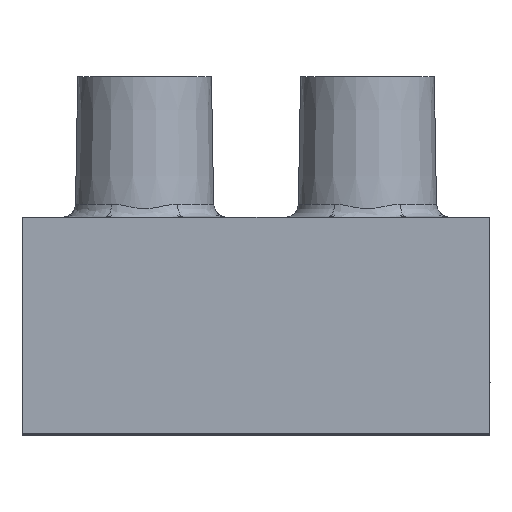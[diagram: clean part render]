
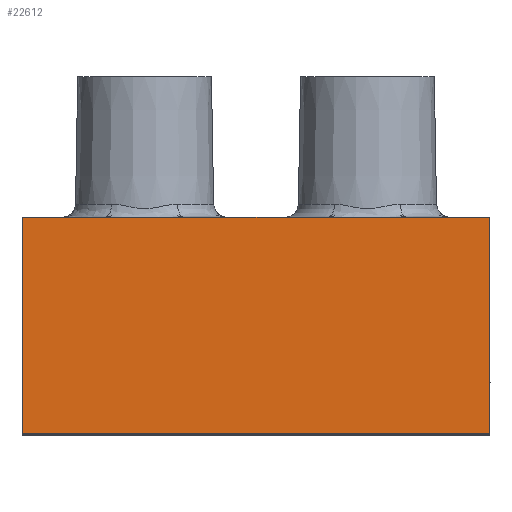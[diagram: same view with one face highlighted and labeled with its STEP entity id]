
A CAD part, top view. The second image highlights one B-rep face of the part: STEP entity #22612.
In plain terms, the highlighted planar face has unit normal (0, 0, 1).
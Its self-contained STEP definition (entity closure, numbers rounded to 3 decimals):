
#1708 = CARTESIAN_POINT ( 'NONE',  ( -7.399, 2.649, 0. ) ) ;
#3031 = CARTESIAN_POINT ( 'NONE',  ( -20.935, 2.649, 0. ) ) ;
#6104 = CARTESIAN_POINT ( 'NONE',  ( -17.399, 2.649, 0. ) ) ;
#6105 = DIRECTION ( 'NONE',  ( 1., 0., 0. ) ) ;
#6106 = VECTOR ( 'NONE', #6105, 1000. ) ;
#6107 = CARTESIAN_POINT ( 'NONE',  ( -14.167, 2.649, 0. ) ) ;
#6108 = LINE ( 'NONE', #6107, #6106 ) ;
#6340 = CARTESIAN_POINT ( 'NONE',  ( -3.667, 2.649, 0. ) ) ;
#6341 = DIRECTION ( 'NONE',  ( 1., 0., 0. ) ) ;
#6342 = VECTOR ( 'NONE', #6341, 1000. ) ;
#6343 = CARTESIAN_POINT ( 'NONE',  ( -14.167, 2.649, 0. ) ) ;
#6344 = LINE ( 'NONE', #6343, #6342 ) ;
#6372 = DIRECTION ( 'NONE',  ( 1., 0., 0. ) ) ;
#6383 = VECTOR ( 'NONE', #6372, 1000. ) ;
#6384 = CARTESIAN_POINT ( 'NONE',  ( -14.167, 2.649, 0. ) ) ;
#6385 = LINE ( 'NONE', #6384, #6383 ) ;
#6387 = CARTESIAN_POINT ( 'NONE',  ( -10.935, 2.649, 0. ) ) ;
#6389 = CARTESIAN_POINT ( 'NONE',  ( -3.667, -7.051, 0. ) ) ;
#6390 = DIRECTION ( 'NONE',  ( 0., -1., 0. ) ) ;
#6391 = VECTOR ( 'NONE', #6390, 1000. ) ;
#6392 = CARTESIAN_POINT ( 'NONE',  ( -3.667, -2.201, 0. ) ) ;
#6393 = LINE ( 'NONE', #6392, #6391 ) ;
#6483 = DIRECTION ( 'NONE',  ( 1., 0., 0. ) ) ;
#6484 = VECTOR ( 'NONE', #6483, 1000. ) ;
#6485 = CARTESIAN_POINT ( 'NONE',  ( -14.167, 2.649, 0. ) ) ;
#6486 = LINE ( 'NONE', #6485, #6484 ) ;
#6493 = CARTESIAN_POINT ( 'NONE',  ( -24.667, 2.649, 0. ) ) ;
#6494 = CARTESIAN_POINT ( 'NONE',  ( -24.667, -7.051, 0. ) ) ;
#6501 = DIRECTION ( 'NONE',  ( 0., 1., 0. ) ) ;
#6502 = VECTOR ( 'NONE', #6501, 1000. ) ;
#6503 = CARTESIAN_POINT ( 'NONE',  ( -24.667, -2.201, 0. ) ) ;
#6504 = LINE ( 'NONE', #6503, #6502 ) ;
#7653 = DIRECTION ( 'NONE',  ( -1., 0., 0. ) ) ;
#7654 = VECTOR ( 'NONE', #7653, 1000. ) ;
#7655 = CARTESIAN_POINT ( 'NONE',  ( -14.167, -7.051, 0. ) ) ;
#7656 = LINE ( 'NONE', #7655, #7654 ) ;
#8140 = FACE_OUTER_BOUND ( 'NONE', #22613, .T. ) ;
#8156 = DIRECTION ( 'NONE',  ( 0., 1., 0. ) ) ;
#8157 = DIRECTION ( 'NONE',  ( 0., 0., -1. ) ) ;
#8158 = CARTESIAN_POINT ( 'NONE',  ( -24.667, -7.051, 0. ) ) ;
#8159 = AXIS2_PLACEMENT_3D ( 'NONE', #8158, #8157, #8156 ) ;
#8160 = PLANE ( 'NONE',  #8159 ) ;
#8196 = DIRECTION ( 'NONE',  ( -1., 0., 0. ) ) ;
#8197 = VECTOR ( 'NONE', #8196, 1000. ) ;
#8198 = CARTESIAN_POINT ( 'NONE',  ( -14.167, 2.649, 0. ) ) ;
#8199 = LINE ( 'NONE', #8198, #8197 ) ;
#20215 = VERTEX_POINT ( 'NONE', #1708 ) ;
#20403 = VERTEX_POINT ( 'NONE', #3031 ) ;
#21616 = EDGE_CURVE ( 'NONE', #20403, #21617, #6108, .T. ) ;
#21617 = VERTEX_POINT ( 'NONE', #6104 ) ;
#21665 = EDGE_CURVE ( 'NONE', #20215, #21666, #6344, .T. ) ;
#21666 = VERTEX_POINT ( 'NONE', #6340 ) ;
#21677 = EDGE_CURVE ( 'NONE', #21666, #21678, #6393, .T. ) ;
#21678 = VERTEX_POINT ( 'NONE', #6389 ) ;
#21681 = VERTEX_POINT ( 'NONE', #6387 ) ;
#21683 = EDGE_CURVE ( 'NONE', #21681, #20215, #6385, .T. ) ;
#21695 = EDGE_CURVE ( 'NONE', #21720, #20403, #6486, .T. ) ;
#21716 = EDGE_CURVE ( 'NONE', #21718, #21720, #6504, .T. ) ;
#21718 = VERTEX_POINT ( 'NONE', #6494 ) ;
#21720 = VERTEX_POINT ( 'NONE', #6493 ) ;
#22356 = EDGE_CURVE ( 'NONE', #21678, #21718, #7656, .T. ) ;
#22612 = ADVANCED_FACE ( 'NONE', ( #8140 ), #8160, .F. ) ;
#22613 = EDGE_LOOP ( 'NONE', ( #22615, #22618, #22620, #22623, #22626, #22627, #22631, #22669 ) ) ;
#22615 = ORIENTED_EDGE ( 'NONE', *, *, #21716, .F. ) ;
#22618 = ORIENTED_EDGE ( 'NONE', *, *, #22356, .F. ) ;
#22620 = ORIENTED_EDGE ( 'NONE', *, *, #21677, .F. ) ;
#22623 = ORIENTED_EDGE ( 'NONE', *, *, #21665, .F. ) ;
#22626 = ORIENTED_EDGE ( 'NONE', *, *, #21683, .F. ) ;
#22627 = ORIENTED_EDGE ( 'NONE', *, *, #22629, .T. ) ;
#22629 = EDGE_CURVE ( 'NONE', #21681, #21617, #8199, .T. ) ;
#22631 = ORIENTED_EDGE ( 'NONE', *, *, #21616, .F. ) ;
#22669 = ORIENTED_EDGE ( 'NONE', *, *, #21695, .F. ) ;
